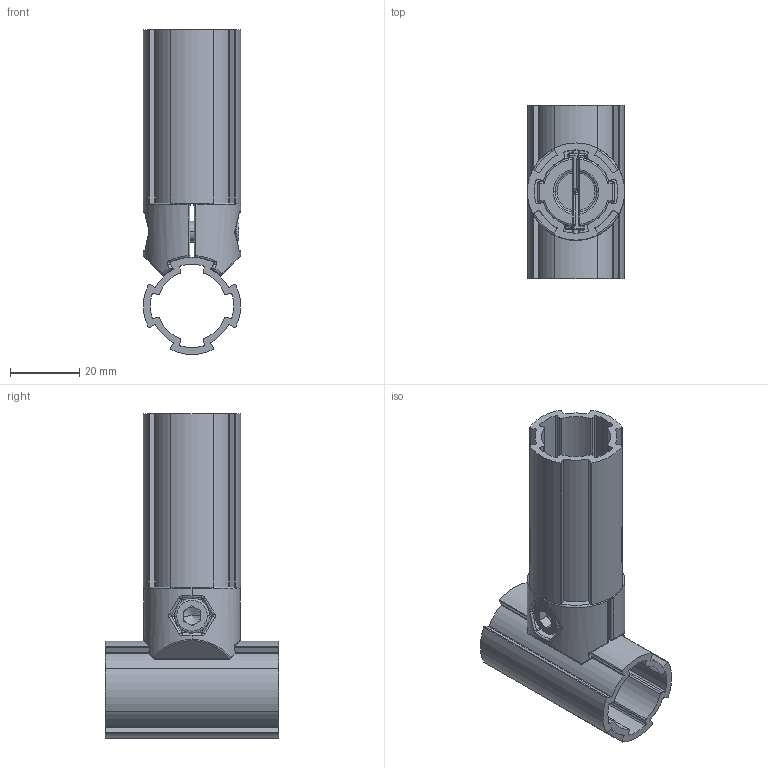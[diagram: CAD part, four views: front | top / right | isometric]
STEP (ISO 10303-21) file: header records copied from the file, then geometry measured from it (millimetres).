
FILE_DESCRIPTION (( 'STEP AP214' ), '1' );
FILE_NAME ('099RV2890LS03.STEP', '2019-09-16T12:11:57', ( '' ), ( '' ), 'SwSTEP 2.0', 'SolidWorks 2019', '' );
FILE_SCHEMA (( 'AUTOMOTIVE_DESIGN' ));
Length unit declared in the file: millimetre
Products named in the file (5): 4iso10511m06m_4iso10511m06m; 099RV2890LS03; 099RV2890LS03R01; 114932 - 4DIN912M0620M_DIN 912 M6 x 20 --- 25N; rundrohr-28(Standard)___
Assembly tree (6 placements, depth 2):
  099RV2890LS03
    099RV2890LS03R01  x2
    rundrohr-28(Standard)___  x2
    114932 - 4DIN912M0620M_DIN 912 M6 x 20 --- 25N
    4iso10511m06m_4iso10511m06m
Bounding box: 28 x 50 x 93.65 mm (x, y, z)
Volume: 32112.3 mm3; surface area: 27137.7 mm2
Topology: 6 solids, 6 shells, 724 faces, 1760 edges, 999 vertices
Faces by surface type: cylinder 324, plane 134, torus 96, bspline 96, sphere 54, cone 20
Entity records: 12732 total; most frequent: CARTESIAN_POINT 3485, DIRECTION 1932, ORIENTED_EDGE 1816, EDGE_CURVE 908, AXIS2_PLACEMENT_3D 797, VERTEX_POINT 528, CIRCLE 443, EDGE_LOOP 404
